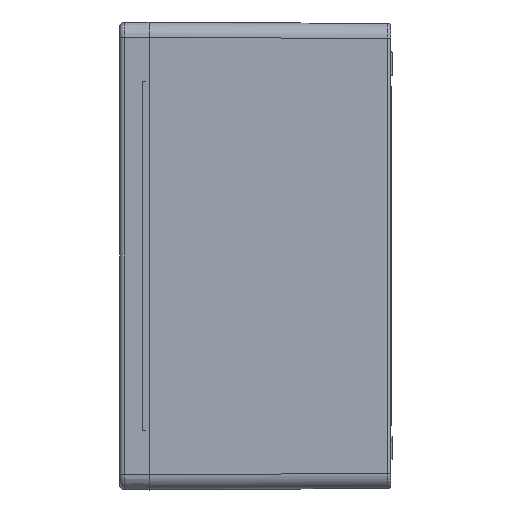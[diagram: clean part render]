
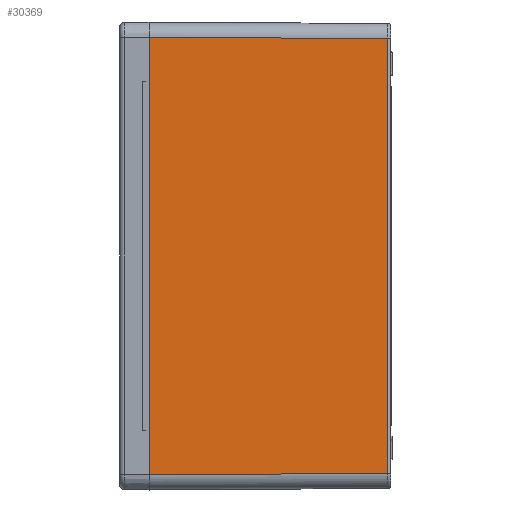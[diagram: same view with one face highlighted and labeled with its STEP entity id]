
A CAD part, left-side view. The second image highlights one B-rep face of the part: STEP entity #30369.
In plain terms, the highlighted planar face has unit normal (-1, -0.003, 0) as drawn and (1, -0.003, 0) by its records, which use the part's own axes.
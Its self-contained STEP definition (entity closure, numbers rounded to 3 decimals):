
#6692=DIRECTION('',(0.,0.,1.));
#6693=VECTOR('',#6692,290.);
#6694=CARTESIAN_POINT('',(300.,0.,-145.));
#6695=LINE('',#6694,#6693);
#6705=CARTESIAN_POINT('',(300.,0.,145.));
#7176=DIRECTION('',(0.003,1.,0.003));
#7177=VECTOR('',#7176,158.008);
#7178=CARTESIAN_POINT('',(299.506,-158.006,144.506));
#7179=LINE('',#7178,#7177);
#7183=DIRECTION('',(0.003,1.,-0.003));
#7184=VECTOR('',#7183,158.008);
#7185=CARTESIAN_POINT('',(299.506,-158.006,
-144.506));
#7186=LINE('',#7185,#7184);
#7190=DIRECTION('',(0.,0.,1.));
#7191=VECTOR('',#7190,289.013);
#7192=CARTESIAN_POINT('',(299.506,-158.006,
-144.506));
#7193=LINE('',#7192,#7191);
#25151=VERTEX_POINT('',#6705);
#25152=CARTESIAN_POINT('',(299.506,-158.006,
144.506));
#25153=VERTEX_POINT('',#25152);
#25158=CARTESIAN_POINT('',(300.,0.,-145.));
#25159=VERTEX_POINT('',#25158);
#25160=CARTESIAN_POINT('',(299.506,-158.006,
-144.506));
#25161=VERTEX_POINT('',#25160);
#30356=CARTESIAN_POINT('',(299.75,-80.,0.));
#30357=DIRECTION('',(1.,-0.003,0.));
#30358=DIRECTION('',(0.003,1.,0.));
#30359=AXIS2_PLACEMENT_3D('',#30356,#30357,#30358);
#30360=PLANE('',#30359);
#30361=ORIENTED_EDGE('',*,*,#30348,.T.);
#30362=ORIENTED_EDGE('',*,*,#30147,.F.);
#30364=ORIENTED_EDGE('',*,*,#30363,.F.);
#30366=ORIENTED_EDGE('',*,*,#30365,.T.);
#30367=EDGE_LOOP('',(#30361,#30362,#30364,#30366));
#30368=FACE_OUTER_BOUND('',#30367,.F.);
#30147=EDGE_CURVE('',#25159,#25151,#6695,.T.);
#30348=EDGE_CURVE('',#25153,#25151,#7179,.T.);
#30363=EDGE_CURVE('',#25161,#25159,#7186,.T.);
#30365=EDGE_CURVE('',#25161,#25153,#7193,.T.);
#30369=ADVANCED_FACE('',(#30368),#30360,.T.);
